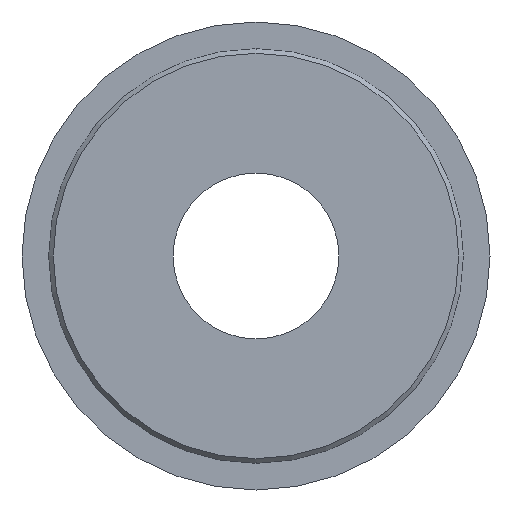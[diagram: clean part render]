
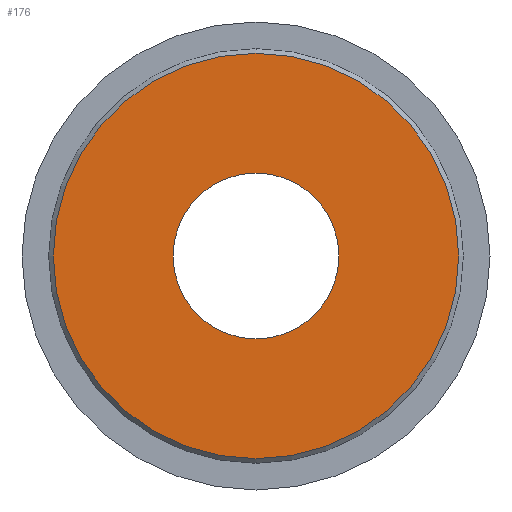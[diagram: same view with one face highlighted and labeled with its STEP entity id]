
A CAD part, front view. The second image highlights one B-rep face of the part: STEP entity #176.
In plain terms, the highlighted planar face has unit normal (0, -1, 0).
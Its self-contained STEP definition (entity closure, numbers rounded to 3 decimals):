
#1 = CIRCLE ( 'NONE', #423, 44. ) ;
#5 = CIRCLE ( 'NONE', #381, 18. ) ;
#11 = CARTESIAN_POINT ( 'NONE',  ( 0., 0., 44. ) ) ;
#15 = AXIS2_PLACEMENT_3D ( 'NONE', #117, #280, #219 ) ;
#16 = VERTEX_POINT ( 'NONE', #11 ) ;
#17 = VERTEX_POINT ( 'NONE', #354 ) ;
#33 = CIRCLE ( 'NONE', #370, 44. ) ;
#70 = CARTESIAN_POINT ( 'NONE',  ( 0., 0., -44. ) ) ;
#86 = EDGE_LOOP ( 'NONE', ( #317, #358 ) ) ;
#92 = DIRECTION ( 'NONE',  ( 0., 0., 1. ) ) ;
#94 = EDGE_CURVE ( 'NONE', #210, #17, #5, .T. ) ;
#102 = FACE_BOUND ( 'NONE', #245, .T. ) ;
#106 = CIRCLE ( 'NONE', #15, 18. ) ;
#117 = CARTESIAN_POINT ( 'NONE',  ( 0., 0., 0. ) ) ;
#120 = DIRECTION ( 'NONE',  ( 0., -1., 0. ) ) ;
#122 = DIRECTION ( 'NONE',  ( 0., -1., 0. ) ) ;
#124 = EDGE_CURVE ( 'NONE', #16, #406, #1, .T. ) ;
#137 = AXIS2_PLACEMENT_3D ( 'NONE', #197, #300, #92 ) ;
#143 = DIRECTION ( 'NONE',  ( 0., 0., 1. ) ) ;
#159 = PLANE ( 'NONE',  #137 ) ;
#176 = ADVANCED_FACE ( 'NONE', ( #237, #102 ), #159, .F. ) ;
#187 = DIRECTION ( 'NONE',  ( 0., -1., 0. ) ) ;
#197 = CARTESIAN_POINT ( 'NONE',  ( -18., 0., 0. ) ) ;
#204 = ORIENTED_EDGE ( 'NONE', *, *, #94, .F. ) ;
#210 = VERTEX_POINT ( 'NONE', #369 ) ;
#219 = DIRECTION ( 'NONE',  ( 0., 0., -1. ) ) ;
#237 = FACE_OUTER_BOUND ( 'NONE', #86, .T. ) ;
#245 = EDGE_LOOP ( 'NONE', ( #204, #400 ) ) ;
#280 = DIRECTION ( 'NONE',  ( 0., -1., 0. ) ) ;
#285 = CARTESIAN_POINT ( 'NONE',  ( 0., 0., 0. ) ) ;
#300 = DIRECTION ( 'NONE',  ( 0., 1., 0. ) ) ;
#317 = ORIENTED_EDGE ( 'NONE', *, *, #124, .T. ) ;
#326 = DIRECTION ( 'NONE',  ( 0., 0., 1. ) ) ;
#328 = DIRECTION ( 'NONE',  ( 0., 0., -1. ) ) ;
#354 = CARTESIAN_POINT ( 'NONE',  ( 0., 0., 18. ) ) ;
#358 = ORIENTED_EDGE ( 'NONE', *, *, #373, .T. ) ;
#362 = CARTESIAN_POINT ( 'NONE',  ( 0., 0., 0. ) ) ;
#363 = CARTESIAN_POINT ( 'NONE',  ( 0., 0., 0. ) ) ;
#369 = CARTESIAN_POINT ( 'NONE',  ( 0., 0., -18. ) ) ;
#370 = AXIS2_PLACEMENT_3D ( 'NONE', #285, #187, #143 ) ;
#373 = EDGE_CURVE ( 'NONE', #406, #16, #33, .T. ) ;
#381 = AXIS2_PLACEMENT_3D ( 'NONE', #363, #122, #328 ) ;
#394 = EDGE_CURVE ( 'NONE', #17, #210, #106, .T. ) ;
#400 = ORIENTED_EDGE ( 'NONE', *, *, #394, .F. ) ;
#406 = VERTEX_POINT ( 'NONE', #70 ) ;
#423 = AXIS2_PLACEMENT_3D ( 'NONE', #362, #120, #326 ) ;
